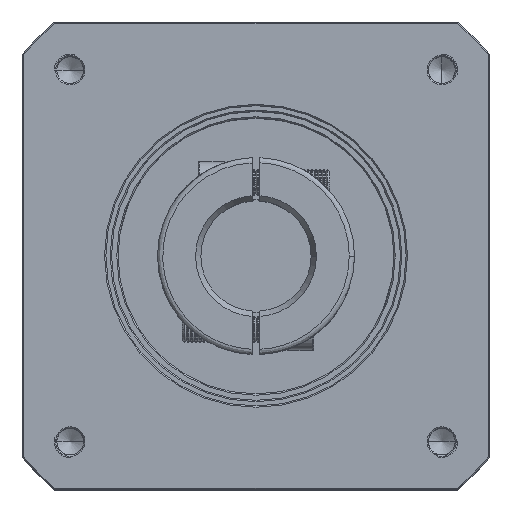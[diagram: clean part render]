
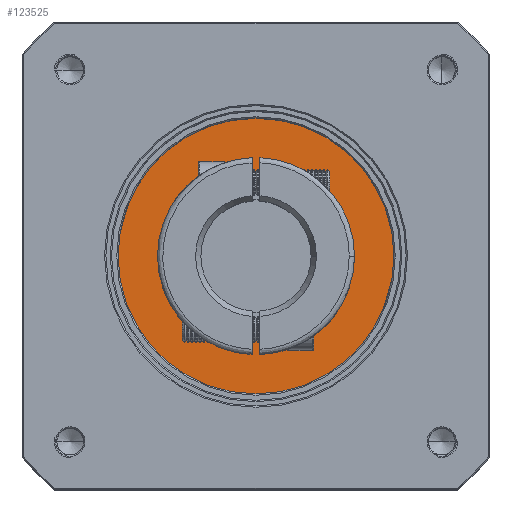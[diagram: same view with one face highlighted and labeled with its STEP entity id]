
A CAD part, top view. The second image highlights one B-rep face of the part: STEP entity #123525.
In plain terms, the highlighted planar face has unit normal (0, 0, 1).
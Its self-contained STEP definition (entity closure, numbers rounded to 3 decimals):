
#1536 = CARTESIAN_POINT ( 'NONE',  ( -54.278, 105.693, -34.089 ) ) ;
#7723 = PLANE ( 'NONE',  #40317 ) ;
#9867 = EDGE_CURVE ( 'NONE', #108276, #82498, #33785, .T. ) ;
#14347 = CIRCLE ( 'NONE', #128166, 52.5 ) ;
#21551 = ORIENTED_EDGE ( 'NONE', *, *, #99366, .T. ) ;
#23485 = CARTESIAN_POINT ( 'NONE',  ( -84.778, 105.693, -34.089 ) ) ;
#23889 = CARTESIAN_POINT ( 'NONE',  ( -115.278, 105.693, -34.089 ) ) ;
#33447 = EDGE_CURVE ( 'NONE', #79225, #71933, #14347, .T. ) ;
#33785 = CIRCLE ( 'NONE', #105906, 30.5 ) ;
#37937 = CARTESIAN_POINT ( 'NONE',  ( -137.278, 105.693, -34.089 ) ) ;
#38468 = ORIENTED_EDGE ( 'NONE', *, *, #9867, .F. ) ;
#39177 = DIRECTION ( 'NONE',  ( -1., 0., 0. ) ) ;
#39790 = ORIENTED_EDGE ( 'NONE', *, *, #87687, .F. ) ;
#40317 = AXIS2_PLACEMENT_3D ( 'NONE', #50614, #81484, #39177 ) ;
#50614 = CARTESIAN_POINT ( 'NONE',  ( -84.778, 105.693, -34.089 ) ) ;
#51449 = CARTESIAN_POINT ( 'NONE',  ( -32.278, 105.693, -34.089 ) ) ;
#51563 = DIRECTION ( 'NONE',  ( 0., 0., 1. ) ) ;
#54757 = FACE_BOUND ( 'NONE', #98180, .T. ) ;
#62193 = DIRECTION ( 'NONE',  ( 0., 0., 1. ) ) ;
#62423 = CARTESIAN_POINT ( 'NONE',  ( -84.778, 105.693, -34.089 ) ) ;
#63292 = DIRECTION ( 'NONE',  ( -1., 0., 0. ) ) ;
#64624 = CARTESIAN_POINT ( 'NONE',  ( -84.778, 105.693, -34.089 ) ) ;
#71933 = VERTEX_POINT ( 'NONE', #37937 ) ;
#74288 = FACE_OUTER_BOUND ( 'NONE', #117733, .T. ) ;
#79225 = VERTEX_POINT ( 'NONE', #51449 ) ;
#80746 = CIRCLE ( 'NONE', #85001, 30.5 ) ;
#81484 = DIRECTION ( 'NONE',  ( 0., 0., -1. ) ) ;
#82498 = VERTEX_POINT ( 'NONE', #1536 ) ;
#85001 = AXIS2_PLACEMENT_3D ( 'NONE', #114156, #62193, #124597 ) ;
#87687 = EDGE_CURVE ( 'NONE', #82498, #108276, #80746, .T. ) ;
#92438 = CIRCLE ( 'NONE', #112028, 52.5 ) ;
#98180 = EDGE_LOOP ( 'NONE', ( #39790, #38468 ) ) ;
#99366 = EDGE_CURVE ( 'NONE', #71933, #79225, #92438, .T. ) ;
#105906 = AXIS2_PLACEMENT_3D ( 'NONE', #23485, #117379, #129142 ) ;
#108276 = VERTEX_POINT ( 'NONE', #23889 ) ;
#112028 = AXIS2_PLACEMENT_3D ( 'NONE', #62423, #51563, #124373 ) ;
#113356 = ORIENTED_EDGE ( 'NONE', *, *, #33447, .T. ) ;
#114156 = CARTESIAN_POINT ( 'NONE',  ( -84.778, 105.693, -34.089 ) ) ;
#117379 = DIRECTION ( 'NONE',  ( 0., 0., 1. ) ) ;
#117733 = EDGE_LOOP ( 'NONE', ( #21551, #113356 ) ) ;
#123525 = ADVANCED_FACE ( 'NONE', ( #54757, #74288 ), #7723, .F. ) ;
#124373 = DIRECTION ( 'NONE',  ( -1., 0., 0. ) ) ;
#124597 = DIRECTION ( 'NONE',  ( 1., 0., 0. ) ) ;
#125210 = DIRECTION ( 'NONE',  ( 0., 0., 1. ) ) ;
#128166 = AXIS2_PLACEMENT_3D ( 'NONE', #64624, #125210, #63292 ) ;
#129142 = DIRECTION ( 'NONE',  ( 1., 0., 0. ) ) ;
